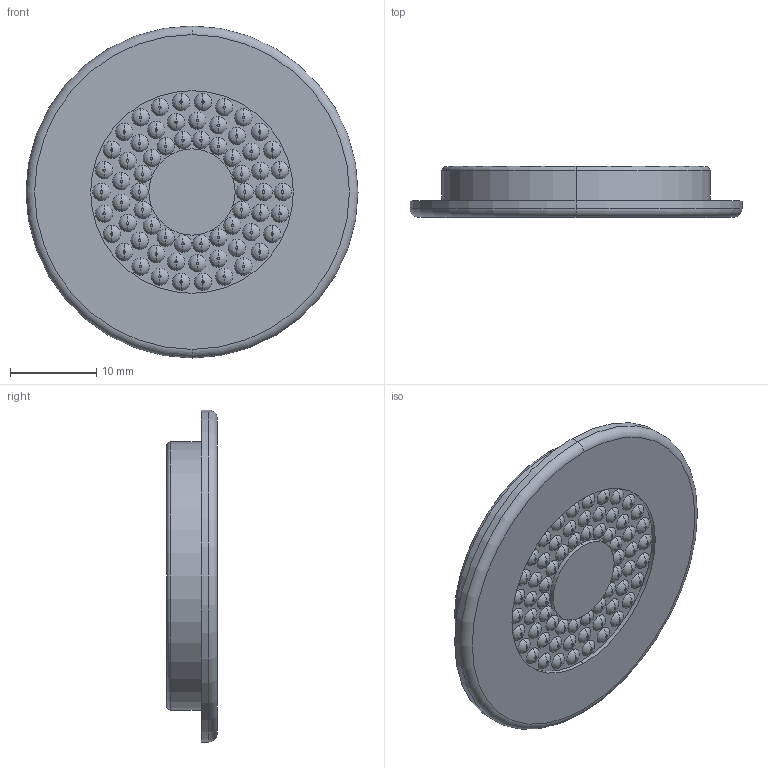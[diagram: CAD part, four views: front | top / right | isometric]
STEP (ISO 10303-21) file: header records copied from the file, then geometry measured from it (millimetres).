
FILE_DESCRIPTION (( 'STEP AP214' ), '1' );
FILE_NAME ('GOMAAV040.STEP', '2024-01-24T15:56:08', ( '' ), ( '' ), 'SwSTEP 2.0', 'SolidWorks 2022', '' );
FILE_SCHEMA (( 'AUTOMOTIVE_DESIGN' ));
Length unit declared in the file: millimetre
Products named in the file (1): GOMAAV040
Bounding box: 38.5 x 5.9 x 38.5 mm (x, y, z)
Volume: 4377.3 mm3; surface area: 3159.6 mm2
Topology: 1 solids, 1 shells, 219 faces, 436 edges, 288 vertices
Faces by surface type: torus 138, plane 71, cylinder 10
Entity records: 5986 total; most frequent: DIRECTION 1302, CARTESIAN_POINT 944, ORIENTED_EDGE 872, AXIS2_PLACEMENT_3D 646, EDGE_CURVE 436, CIRCLE 426, VERTEX_POINT 288, EDGE_LOOP 288
